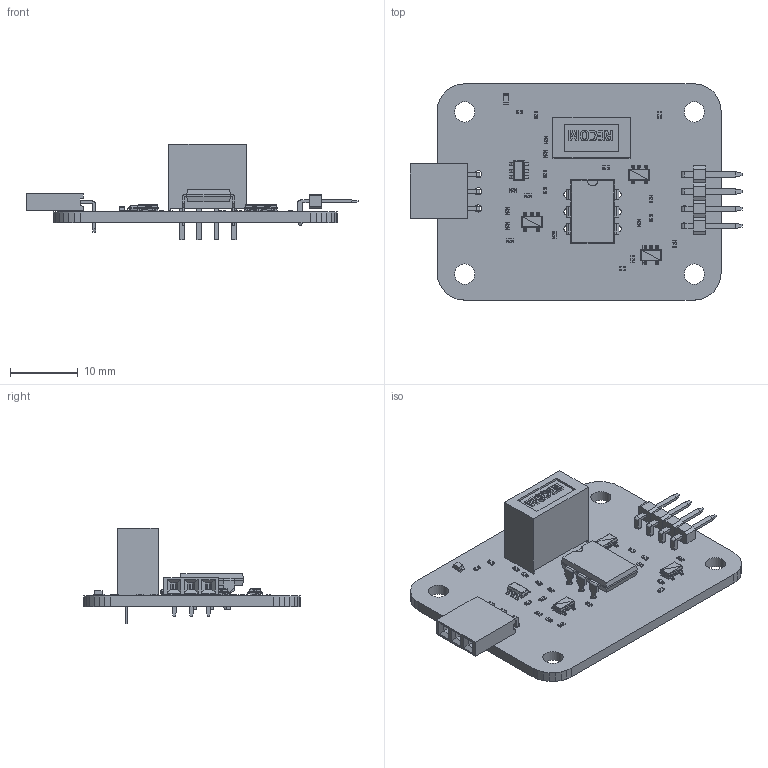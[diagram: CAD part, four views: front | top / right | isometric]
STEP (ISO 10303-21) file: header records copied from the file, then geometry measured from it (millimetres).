
FILE_DESCRIPTION(('for SolidWorks'),'2;1');
FILE_NAME('C:\Users\Efrem-PC\Desktop\3D DESIGNS\Atlas Products\Gravity\Iso-Gravity.step','2021-11-08T13:13:20',('Efrem-PC'), (''),'Open CASCADE STEP processor 6.6','DipTrace','Unknown');
FILE_SCHEMA(('AUTOMOTIVE_DESIGN { 1 0 10303 214 1 1 1 1 }'));
Length unit declared in the file: millimetre
Products named in the file (10): PCB_Iso-Gravity; Board_Iso-Gravity; hdrf-1x3th_2.54_8x10; apt1608; dip-6; sot23-6; User_Library-RO-0505; hdr-1x4th_1.27_5x5; sot23-5; res_0402
Assembly tree (30 placements, depth 2):
  PCB_Iso-Gravity
    Board_Iso-Gravity
    hdrf-1x3th_2.54_8x10
    apt1608
    dip-6
    sot23-6
    User_Library-RO-0505
    hdr-1x4th_1.27_5x5
    sot23-5  x3
    res_0402  x20
Bounding box: 49.14 x 32 x 14.1 mm (x, y, z)
Volume: 2980.7 mm3; surface area: 4389.9 mm2
Topology: 24 solids, 56 shells, 4181 faces, 7266 edges, 3244 vertices
Faces by surface type: plane 3793, bspline 324, cylinder 64
Full cylindrical faces by diameter (mm): 0.6 x4, 0.9 x10, 1.05 x3, 3 x4
Entity records: 51986 total; most frequent: CARTESIAN_POINT 16559, ORIENTED_EDGE 5864, DIRECTION 4300, EDGE_CURVE 2932, LINE 2072, VECTOR 2072, VERTEX_POINT 1740, FACE_BOUND 1394
